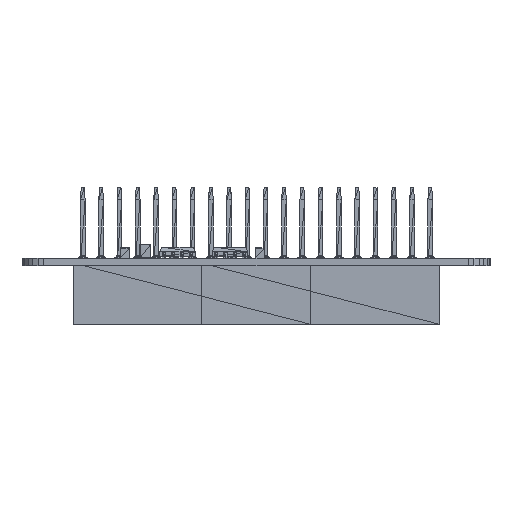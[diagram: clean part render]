
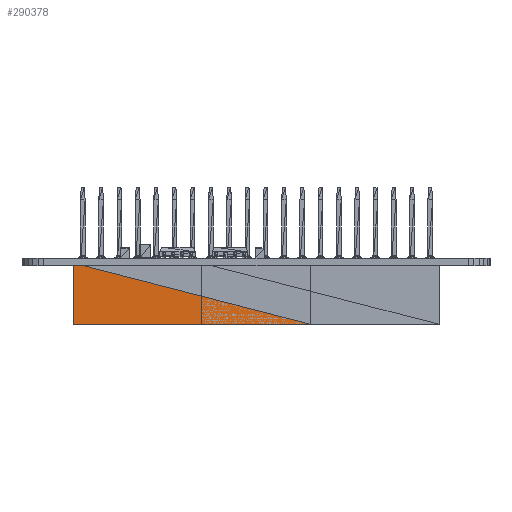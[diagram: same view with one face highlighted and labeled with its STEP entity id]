
A CAD part, front view. The second image highlights one B-rep face of the part: STEP entity #290378.
In plain terms, the highlighted planar face has unit normal (0, -1, 0) as drawn and (0, 0, -1) by its records, which use the part's own axes.
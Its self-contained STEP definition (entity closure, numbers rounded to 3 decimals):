
#23151=FACE_OUTER_BOUND('',#47501,.T.);
#47501=EDGE_LOOP('',(#237625,#237626,#237627));
#82448=LINE('',#469254,#118548);
#82457=LINE('',#469271,#118557);
#82458=LINE('',#469273,#118558);
#118548=VECTOR('',#394625,1.);
#118557=VECTOR('',#394642,1.);
#118558=VECTOR('',#394645,1.);
#133586=VERTEX_POINT('',#469247);
#133588=VERTEX_POINT('',#469253);
#133592=VERTEX_POINT('',#469269);
#167926=EDGE_CURVE('',#133586,#133588,#82448,.T.);
#167935=EDGE_CURVE('',#133592,#133586,#82457,.T.);
#167936=EDGE_CURVE('',#133588,#133592,#82458,.T.);
#237625=ORIENTED_EDGE('',*,*,#167926,.F.);
#237626=ORIENTED_EDGE('',*,*,#167935,.F.);
#237627=ORIENTED_EDGE('',*,*,#167936,.F.);
#266294=PLANE('',#315154);
#290378=ADVANCED_FACE('',(#23151),#266294,.F.);
#315154=AXIS2_PLACEMENT_3D('',#469272,#394643,#394644);
#394625=DIRECTION('',(0.968,0.249,0.));
#394642=DIRECTION('',(0.,-1.,0.));
#394643=DIRECTION('center_axis',(0.,0.,1.));
#394644=DIRECTION('ref_axis',(0.,1.,0.));
#394645=DIRECTION('',(-1.,0.,0.));
#469247=CARTESIAN_POINT('',(-34.335,10.648,-1.253));
#469253=CARTESIAN_POINT('',(-1.315,19.148,-1.253));
#469254=CARTESIAN_POINT('',(-34.335,10.648,-1.253));
#469269=CARTESIAN_POINT('',(-34.335,19.148,-1.253));
#469271=CARTESIAN_POINT('',(-34.335,19.148,-1.253));
#469272=CARTESIAN_POINT('Origin',(-1.315,19.148,-1.253));
#469273=CARTESIAN_POINT('',(-1.315,19.148,-1.253));
